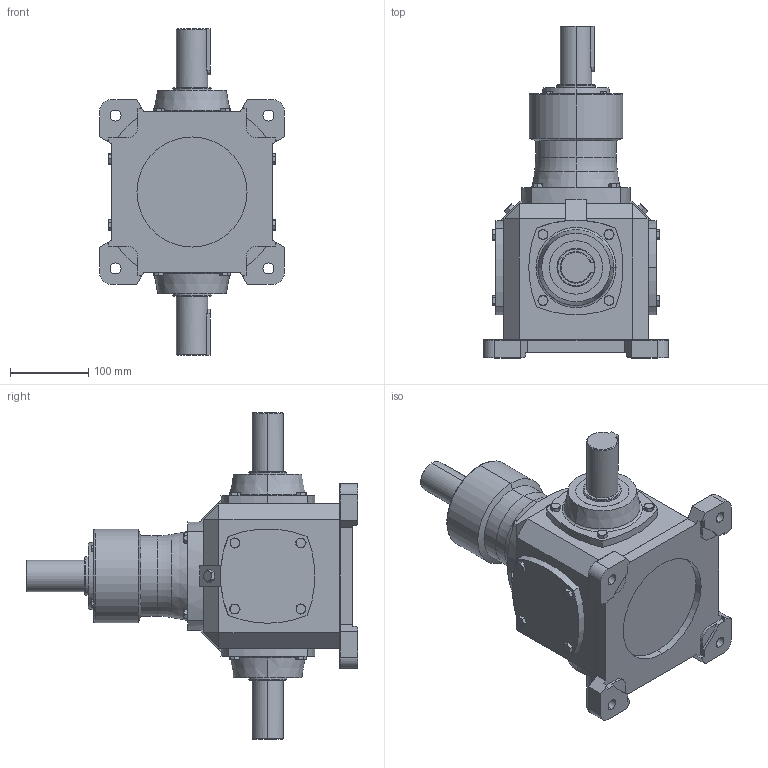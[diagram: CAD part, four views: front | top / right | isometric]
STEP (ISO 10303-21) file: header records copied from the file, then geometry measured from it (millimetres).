
FILE_DESCRIPTION (( 'STEP AP203' ), '1' );
FILE_NAME ('TC8-1-WS1-V2.step', '2018-07-13T06:05:49', ( 'IT Division' ), ( 'IT' ), 'SwSTEP 2.0', 'SolidWorks 2016', '' );
FILE_SCHEMA (( 'CONFIG_CONTROL_DESIGN' ));
Length unit declared in the file: millimetre
Products named in the file (1): TC8-1-WS1-V2
Bounding box: 235 x 423 x 416 mm (x, y, z)
Volume: 9053499.5 mm3; surface area: 420691 mm2
Topology: 2 solids, 2 shells, 604 faces, 1447 edges, 886 vertices
Faces by surface type: plane 300, cone 199, cylinder 93, torus 12
Entity records: 18351 total; most frequent: CARTESIAN_POINT 4717, ORIENTED_EDGE 2894, DIRECTION 2689, EDGE_CURVE 1447, AXIS2_PLACEMENT_3D 986, VERTEX_POINT 886, LINE 717, VECTOR 717
